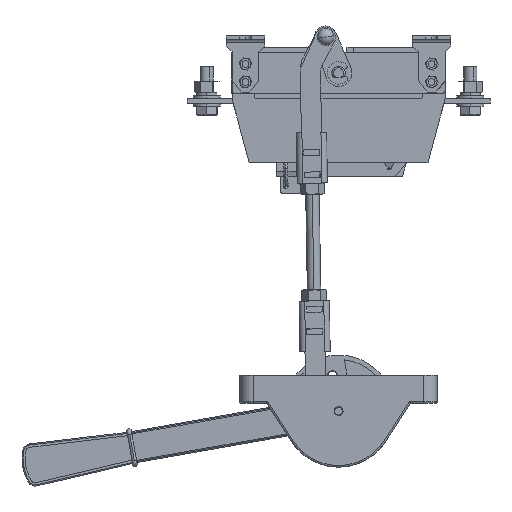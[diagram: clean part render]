
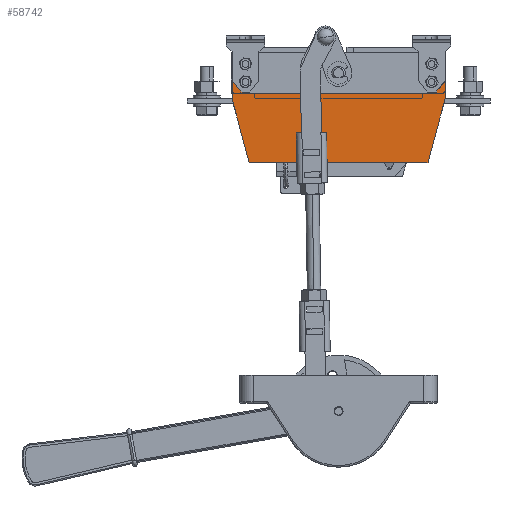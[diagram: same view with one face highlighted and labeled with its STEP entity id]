
A CAD part, left-side view. The second image highlights one B-rep face of the part: STEP entity #58742.
In plain terms, the highlighted planar face has unit normal (-1, 0, 0).
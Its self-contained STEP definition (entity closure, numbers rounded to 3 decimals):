
#552 = EDGE_CURVE ( 'NONE', #43737, #6566, #33888, .T. ) ;
#2647 = DIRECTION ( 'NONE',  ( 0., -0.259, -0.966 ) ) ;
#3263 = DIRECTION ( 'NONE',  ( -1., 0., 0. ) ) ;
#6566 = VERTEX_POINT ( 'NONE', #51098 ) ;
#7007 = LINE ( 'NONE', #93019, #36024 ) ;
#8695 = DIRECTION ( 'NONE',  ( 0., 1., 0. ) ) ;
#10508 = VERTEX_POINT ( 'NONE', #25991 ) ;
#10750 = ORIENTED_EDGE ( 'NONE', *, *, #77116, .T. ) ;
#11231 = EDGE_LOOP ( 'NONE', ( #76213, #87742, #101430, #10750, #65051, #64523, #96261, #31996 ) ) ;
#17652 = EDGE_LOOP ( 'NONE', ( #63629, #58271 ) ) ;
#17811 = CARTESIAN_POINT ( 'NONE',  ( -111., -79.727, -80. ) ) ;
#18586 = PLANE ( 'NONE',  #57686 ) ;
#19391 = DIRECTION ( 'NONE',  ( 0., 1., 0. ) ) ;
#20397 = CARTESIAN_POINT ( 'NONE',  ( -111., 95., -1. ) ) ;
#23099 = CIRCLE ( 'NONE', #23397, 3.5 ) ;
#23397 = AXIS2_PLACEMENT_3D ( 'NONE', #24234, #88917, #8695 ) ;
#24234 = CARTESIAN_POINT ( 'NONE',  ( -111., 83., -8. ) ) ;
#24878 = EDGE_CURVE ( 'NONE', #10508, #40381, #69705, .T. ) ;
#25991 = CARTESIAN_POINT ( 'NONE',  ( -111., -86.5, -8. ) ) ;
#26135 = VERTEX_POINT ( 'NONE', #33726 ) ;
#27233 = CARTESIAN_POINT ( 'NONE',  ( -111., -95., -23. ) ) ;
#28021 = EDGE_CURVE ( 'NONE', #26135, #90335, #23099, .T. ) ;
#29021 = VECTOR ( 'NONE', #101206, 1000. ) ;
#30330 = CARTESIAN_POINT ( 'NONE',  ( -111., -7.937, -1. ) ) ;
#31138 = VECTOR ( 'NONE', #67417, 1000. ) ;
#31157 = AXIS2_PLACEMENT_3D ( 'NONE', #99587, #3263, #83116 ) ;
#31996 = ORIENTED_EDGE ( 'NONE', *, *, #54118, .T. ) ;
#33726 = CARTESIAN_POINT ( 'NONE',  ( -111., 79.5, -8. ) ) ;
#33888 = LINE ( 'NONE', #42449, #42687 ) ;
#35302 = DIRECTION ( 'NONE',  ( 0., 0., -1. ) ) ;
#36024 = VECTOR ( 'NONE', #44868, 1000. ) ;
#36269 = VERTEX_POINT ( 'NONE', #27233 ) ;
#39377 = VERTEX_POINT ( 'NONE', #41911 ) ;
#40088 = VECTOR ( 'NONE', #87245, 1000. ) ;
#40381 = VERTEX_POINT ( 'NONE', #95125 ) ;
#41911 = CARTESIAN_POINT ( 'NONE',  ( -111., -95., -1. ) ) ;
#42449 = CARTESIAN_POINT ( 'NONE',  ( -111., 79.727, -80. ) ) ;
#42687 = VECTOR ( 'NONE', #2647, 1000. ) ;
#43427 = VECTOR ( 'NONE', #35302, 1000. ) ;
#43737 = VERTEX_POINT ( 'NONE', #93213 ) ;
#43866 = LINE ( 'NONE', #30330, #40088 ) ;
#44311 = DIRECTION ( 'NONE',  ( -1., 0., 0. ) ) ;
#44621 = EDGE_CURVE ( 'NONE', #6566, #82501, #7007, .T. ) ;
#44868 = DIRECTION ( 'NONE',  ( 0., -1., 0. ) ) ;
#46062 = LINE ( 'NONE', #17811, #83789 ) ;
#50716 = CARTESIAN_POINT ( 'NONE',  ( -111., 0., 0. ) ) ;
#51098 = CARTESIAN_POINT ( 'NONE',  ( -111., 79.727, -80. ) ) ;
#51289 = CARTESIAN_POINT ( 'NONE',  ( -111., 0., 0. ) ) ;
#52398 = EDGE_CURVE ( 'NONE', #60994, #43737, #64833, .T. ) ;
#52946 = DIRECTION ( 'NONE',  ( -1., 0., 0. ) ) ;
#53435 = FACE_OUTER_BOUND ( 'NONE', #11231, .T. ) ;
#54118 = EDGE_CURVE ( 'NONE', #62753, #60994, #64269, .T. ) ;
#57686 = AXIS2_PLACEMENT_3D ( 'NONE', #51289, #90998, #101518 ) ;
#58271 = ORIENTED_EDGE ( 'NONE', *, *, #28021, .F. ) ;
#58742 = ADVANCED_FACE ( 'NONE', ( #102434, #53435, #62258 ), #18586, .T. ) ;
#59780 = CARTESIAN_POINT ( 'NONE',  ( -111., -83., -8. ) ) ;
#60021 = DIRECTION ( 'NONE',  ( 0., -1., 0. ) ) ;
#60994 = VERTEX_POINT ( 'NONE', #97704 ) ;
#62258 = FACE_BOUND ( 'NONE', #96083, .T. ) ;
#62753 = VERTEX_POINT ( 'NONE', #75499 ) ;
#63629 = ORIENTED_EDGE ( 'NONE', *, *, #99274, .F. ) ;
#63637 = EDGE_CURVE ( 'NONE', #40381, #10508, #96258, .T. ) ;
#64269 = LINE ( 'NONE', #20397, #29021 ) ;
#64523 = ORIENTED_EDGE ( 'NONE', *, *, #83204, .T. ) ;
#64833 = LINE ( 'NONE', #74682, #43427 ) ;
#65051 = ORIENTED_EDGE ( 'NONE', *, *, #84321, .T. ) ;
#66225 = CIRCLE ( 'NONE', #31157, 3.5 ) ;
#67417 = DIRECTION ( 'NONE',  ( 0., 0., 1. ) ) ;
#69705 = CIRCLE ( 'NONE', #79623, 3.5 ) ;
#72844 = CIRCLE ( 'NONE', #102691, 8. ) ;
#74682 = CARTESIAN_POINT ( 'NONE',  ( -111., 95., -23. ) ) ;
#75499 = CARTESIAN_POINT ( 'NONE',  ( -111., 7.937, -1. ) ) ;
#75574 = CARTESIAN_POINT ( 'NONE',  ( -111., -79.727, -80. ) ) ;
#75994 = DIRECTION ( 'NONE',  ( 1., 0., 0. ) ) ;
#76184 = CARTESIAN_POINT ( 'NONE',  ( -111., -95., -23. ) ) ;
#76213 = ORIENTED_EDGE ( 'NONE', *, *, #52398, .T. ) ;
#77116 = EDGE_CURVE ( 'NONE', #82501, #36269, #46062, .T. ) ;
#77218 = ORIENTED_EDGE ( 'NONE', *, *, #63637, .F. ) ;
#79257 = AXIS2_PLACEMENT_3D ( 'NONE', #59780, #44311, #99796 ) ;
#79623 = AXIS2_PLACEMENT_3D ( 'NONE', #84275, #52946, #60021 ) ;
#82501 = VERTEX_POINT ( 'NONE', #75574 ) ;
#83116 = DIRECTION ( 'NONE',  ( 0., 1., 0. ) ) ;
#83204 = EDGE_CURVE ( 'NONE', #39377, #83805, #43866, .T. ) ;
#83789 = VECTOR ( 'NONE', #90229, 1000. ) ;
#83805 = VERTEX_POINT ( 'NONE', #85420 ) ;
#84136 = ORIENTED_EDGE ( 'NONE', *, *, #24878, .F. ) ;
#84275 = CARTESIAN_POINT ( 'NONE',  ( -111., -83., -8. ) ) ;
#84321 = EDGE_CURVE ( 'NONE', #36269, #39377, #90205, .T. ) ;
#85420 = CARTESIAN_POINT ( 'NONE',  ( -111., -7.937, -1. ) ) ;
#87245 = DIRECTION ( 'NONE',  ( 0., 1., 0. ) ) ;
#87742 = ORIENTED_EDGE ( 'NONE', *, *, #552, .T. ) ;
#88917 = DIRECTION ( 'NONE',  ( -1., 0., 0. ) ) ;
#90205 = LINE ( 'NONE', #76184, #31138 ) ;
#90229 = DIRECTION ( 'NONE',  ( 0., -0.259, 0.966 ) ) ;
#90264 = EDGE_CURVE ( 'NONE', #83805, #62753, #72844, .T. ) ;
#90335 = VERTEX_POINT ( 'NONE', #99851 ) ;
#90998 = DIRECTION ( 'NONE',  ( -1., 0., 0. ) ) ;
#93019 = CARTESIAN_POINT ( 'NONE',  ( -111., -79.727, -80. ) ) ;
#93213 = CARTESIAN_POINT ( 'NONE',  ( -111., 95., -23. ) ) ;
#95125 = CARTESIAN_POINT ( 'NONE',  ( -111., -79.5, -8. ) ) ;
#96083 = EDGE_LOOP ( 'NONE', ( #84136, #77218 ) ) ;
#96258 = CIRCLE ( 'NONE', #79257, 3.5 ) ;
#96261 = ORIENTED_EDGE ( 'NONE', *, *, #90264, .T. ) ;
#97704 = CARTESIAN_POINT ( 'NONE',  ( -111., 95., -1. ) ) ;
#99274 = EDGE_CURVE ( 'NONE', #90335, #26135, #66225, .T. ) ;
#99587 = CARTESIAN_POINT ( 'NONE',  ( -111., 83., -8. ) ) ;
#99796 = DIRECTION ( 'NONE',  ( 0., -1., 0. ) ) ;
#99851 = CARTESIAN_POINT ( 'NONE',  ( -111., 86.5, -8. ) ) ;
#101206 = DIRECTION ( 'NONE',  ( 0., 1., 0. ) ) ;
#101430 = ORIENTED_EDGE ( 'NONE', *, *, #44621, .T. ) ;
#101518 = DIRECTION ( 'NONE',  ( 0., 1., 0. ) ) ;
#102434 = FACE_BOUND ( 'NONE', #17652, .T. ) ;
#102691 = AXIS2_PLACEMENT_3D ( 'NONE', #50716, #75994, #19391 ) ;
